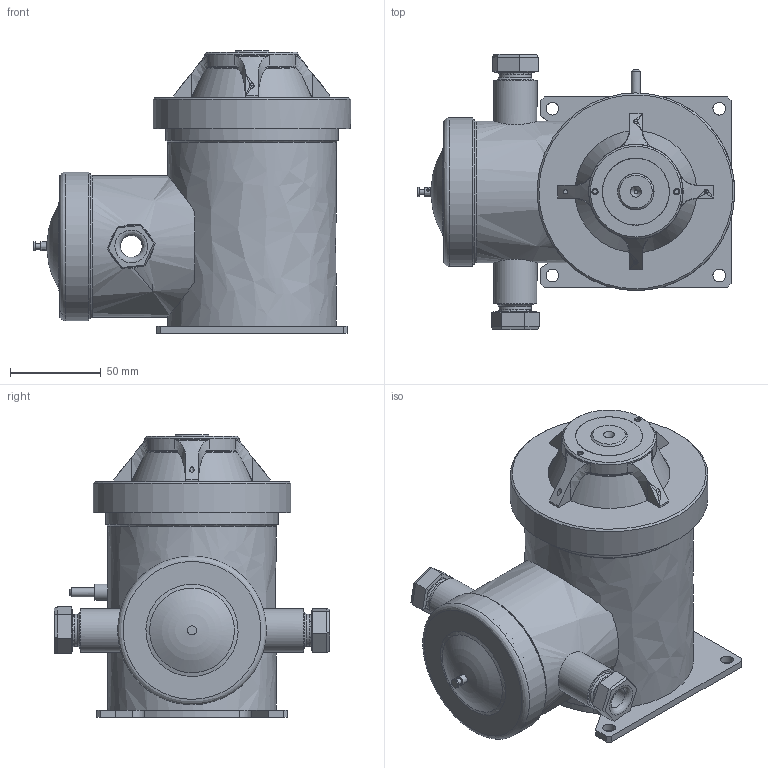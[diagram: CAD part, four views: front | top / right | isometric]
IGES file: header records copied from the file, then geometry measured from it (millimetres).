
Global section: file name: 908.2451.00.000 ИП212-1В в нерж.корпусе; native system: Autodesk Inventor 2016; preprocessor: unknown; author: Admin; organization: unknown; date: 20200618.161752; units: millimetre
Bounding box: 174.99 x 152 x 156 mm (x, y, z)
Volume: 327795 mm3; surface area: 213907.7 mm2
Topology: 20 solids, 20 shells, 319 faces, 836 edges, 572 vertices
Faces by surface type: bspline 319
